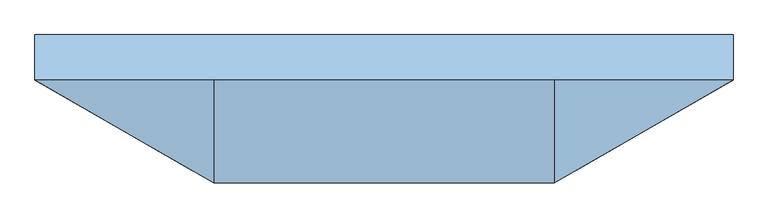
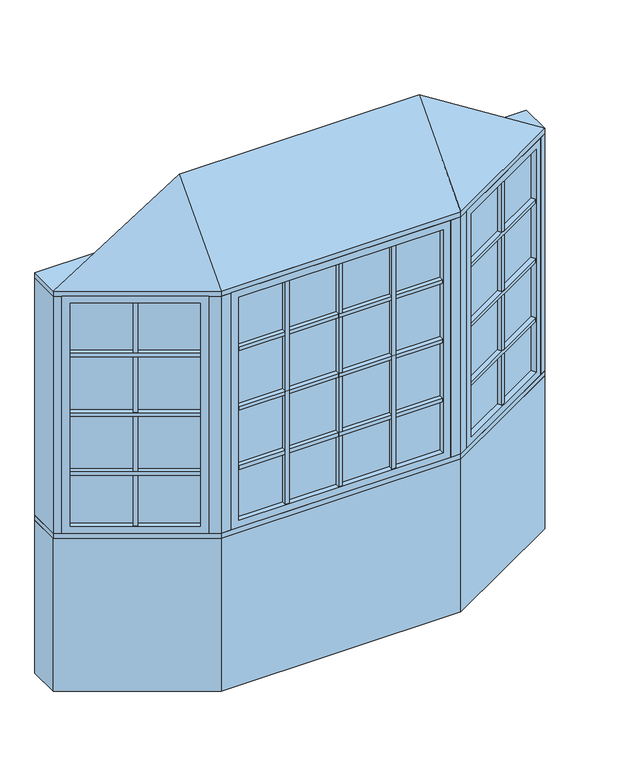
"""IFC4 building model written with IfcOpenShell, lengths in millimetres: window geometry, Pollard_Windows_Tudor Casement Bows and Bays : AML-BAY 30 AFR0612-12-600_GC."""

from ifc_helpers import new_model, si_unit, frame, origin, origin_with_axes, place, context, project, spatial, polyline, outline, extrude, faceted_brep, source, transform, mapped, element, save


def window_377e60f7(model_context):
    return source(origin(), model_context, "Body", "SolidModel", [
        extrude(outline(polyline([(646.881999, -376.6297343), (635.881999, -357.5771754), (1102.1135794, -88.3982469), (1113.1135794, -107.4508058), (646.881999, -376.6297343)])), frame((0.0, 0.0, 1390.998), z_axis=(0.0, 0.0, 1.0), x_axis=(1.0, 0.0, 0.0)), (0.0, 0.0, 1.0), 18.0),
        extrude(outline(polyline([(633.341999, -353.1777664), (622.341999, -334.1252075), (1088.5735794, -64.946279), (1099.5735794, -83.9988379), (633.341999, -353.1777664)])), frame((0.0, 0.0, 1390.998), z_axis=(0.0, 0.0, 1.0), x_axis=(1.0, 0.0, 0.0)), (0.0, 0.0, 1.0), 18.0),
        extrude(outline(polyline([(646.881999, -376.6297343), (635.881999, -357.5771754), (1102.1135794, -88.3982469), (1113.1135794, -107.4508058), (646.881999, -376.6297343)])), frame((0.0, 0.0, 1090.998), z_axis=(0.0, 0.0, 1.0), x_axis=(1.0, 0.0, 0.0)), (0.0, 0.0, 1.0), 18.0),
        extrude(outline(polyline([(633.341999, -353.1777664), (622.341999, -334.1252075), (1088.5735794, -64.946279), (1099.5735794, -83.9988379), (633.341999, -353.1777664)])), frame((0.0, 0.0, 1090.998), z_axis=(0.0, 0.0, 1.0), x_axis=(1.0, 0.0, 0.0)), (0.0, 0.0, 1.0), 18.0),
        extrude(outline(polyline([(646.881999, -376.6297343), (635.881999, -357.5771754), (1102.1135794, -88.3982469), (1113.1135794, -107.4508058), (646.881999, -376.6297343)])), frame((0.0, 0.0, 1390.998), z_axis=(0.0, 0.0, 1.0), x_axis=(1.0, 0.0, 0.0)), (0.0, 0.0, 1.0), 18.0),
        extrude(outline(polyline([(633.341999, -353.1777664), (622.341999, -334.1252075), (1088.5735794, -64.946279), (1099.5735794, -83.9988379), (633.341999, -353.1777664)])), frame((0.0, 0.0, 1390.998), z_axis=(0.0, 0.0, 1.0), x_axis=(1.0, 0.0, 0.0)), (0.0, 0.0, 1.0), 18.0),
        extrude(outline(polyline([(646.881999, -376.6297343), (635.881999, -357.5771754), (1102.1135794, -88.3982469), (1113.1135794, -107.4508058), (646.881999, -376.6297343)])), frame((0.0, 0.0, 1390.998), z_axis=(0.0, 0.0, 1.0), x_axis=(1.0, 0.0, 0.0)), (0.0, 0.0, 1.0), 18.0),
        extrude(outline(polyline([(633.341999, -353.1777664), (622.341999, -334.1252075), (1088.5735794, -64.946279), (1099.5735794, -83.9988379), (633.341999, -353.1777664)])), frame((0.0, 0.0, 1390.998), z_axis=(0.0, 0.0, 1.0), x_axis=(1.0, 0.0, 0.0)), (0.0, 0.0, 1.0), 18.0),
        extrude(outline(polyline([(646.881999, -376.6297343), (635.881999, -357.5771754), (1102.1135794, -88.3982469), (1113.1135794, -107.4508058), (646.881999, -376.6297343)])), frame((0.0, 0.0, 1690.998), z_axis=(0.0, 0.0, 1.0), x_axis=(1.0, 0.0, 0.0)), (0.0, 0.0, 1.0), 18.0),
        extrude(outline(polyline([(633.341999, -353.1777664), (622.341999, -334.1252075), (1088.5735794, -64.946279), (1099.5735794, -83.9988379), (633.341999, -353.1777664)])), frame((0.0, 0.0, 1690.998), z_axis=(0.0, 0.0, 1.0), x_axis=(1.0, 0.0, 0.0)), (0.0, 0.0, 1.0), 18.0),
        extrude(outline(polyline([(876.7920178, -218.4877112), (887.7920178, -237.5402701), (872.2035606, -246.5402701), (861.2035606, -227.4877112), (876.7920178, -218.4877112)])), frame((0.0, 0.0, 835.8628), z_axis=(0.0, 0.0, 1.0), x_axis=(1.0, 0.0, 0.0)), (0.0, 0.0, 1.0), 1128.2704),
        extrude(outline(polyline([(874.2520178, -214.0883021), (858.6635606, -223.0883021), (847.6635606, -204.0357432), (863.2520178, -195.0357432), (874.2520178, -214.0883021)])), frame((0.0, 0.0, 835.8628), z_axis=(0.0, 0.0, 1.0), x_axis=(1.0, 0.0, 0.0)), (0.0, 0.0, 1.0), 1128.2704),
        extrude(outline(polyline([(1113.112102, -82.0482469), (624.8834764, -363.9271754), (622.3434764, -359.5277664), (1110.572102, -77.6488379), (1113.112102, -82.0482469)])), frame((0.0, 0.0, 823.1628), z_axis=(0.0, 0.0, 1.0), x_axis=(1.0, 0.0, 0.0)), (0.0, 0.0, 1.0), 1153.6704),
        faceted_brep([(1102.1135794, -88.3982469, 835.8628), (1114.8135794, -110.3952922, 835.8628), (1114.8135794, -110.3952922, 1964.1332), (1102.1135794, -88.3982469, 1964.1332), (1110.572102, -77.6488379, 823.1628), (1113.112102, -82.0482469, 823.1628), (1113.112102, -82.0482469, 1976.8332), (1110.572102, -77.6488379, 1976.8332), (1086.8735794, -62.0017926, 835.8628), (1099.5735794, -83.9988379, 835.8628), (1099.5735794, -83.9988379, 1964.1332), (1086.8735794, -62.0017926, 1964.1332), (1145.8734073, -92.4628922, 799.998), (1117.9334073, -44.0693926, 799.998), (1117.9334073, -44.0693926, 1999.998), (1145.8734073, -92.4628922, 1999.998), (648.581999, -379.5742207, 1964.1332), (635.881999, -357.5771754, 1964.1332), (624.8834764, -363.9271754, 1976.8332), (622.3434764, -359.5277664, 1976.8332), (633.341999, -353.1777664, 1964.1332), (620.641999, -331.1807211, 1964.1332), (589.5821711, -349.1131211, 1999.998), (617.5221711, -397.5066207, 1999.998), (648.581999, -379.5742207, 835.8628), (635.881999, -357.5771754, 835.8628), (624.8834764, -363.9271754, 823.1628), (622.3434764, -359.5277664, 823.1628), (633.341999, -353.1777664, 835.8628), (620.641999, -331.1807211, 835.8628), (589.5821711, -349.1131211, 799.998), (617.5221711, -397.5066207, 799.998)], [[[0, 1, 2, 3]], [[4, 5, 6, 7]], [[8, 9, 10, 11]], [[12, 13, 14, 15]], [[3, 2, 16, 17]], [[7, 6, 18, 19]], [[11, 10, 20, 21]], [[15, 14, 22, 23]], [[17, 16, 24, 25]], [[19, 18, 26, 27]], [[21, 20, 28, 29]], [[23, 22, 30, 31]], [[25, 24, 1, 0]], [[5, 26, 18, 6], [3, 17, 25, 0]], [[27, 26, 5, 4]], [[7, 19, 27, 4], [9, 28, 20, 10]], [[29, 28, 9, 8]], [[13, 30, 22, 14], [11, 21, 29, 8]], [[31, 30, 13, 12]], [[15, 23, 31, 12], [1, 24, 16, 2]]]),
        extrude(outline(polyline([(264.0281504, -397.1066207), (264.0281504, -419.1066207), (246.0281504, -419.1066207), (246.0281504, -397.1066207), (264.0281504, -397.1066207)])), frame((0.0, 0.0, 835.8628), z_axis=(0.0, 0.0, 1.0), x_axis=(1.0, 0.0, 0.0)), (0.0, 0.0, 1.0), 1128.2704),
        extrude(outline(polyline([(264.0281504, -392.0266207), (246.0281504, -392.0266207), (246.0281504, -370.0266207), (264.0281504, -370.0266207), (264.0281504, -392.0266207)])), frame((0.0, 0.0, 835.8628), z_axis=(0.0, 0.0, 1.0), x_axis=(1.0, 0.0, 0.0)), (0.0, 0.0, 1.0), 1128.2704),
        extrude(outline(polyline([(-246.0281504, -397.1066207), (-246.0281504, -419.1066207), (-264.0281504, -419.1066207), (-264.0281504, -397.1066207), (-246.0281504, -397.1066207)])), frame((0.0, 0.0, 835.8628), z_axis=(0.0, 0.0, 1.0), x_axis=(1.0, 0.0, 0.0)), (0.0, 0.0, 1.0), 1128.2704),
        extrude(outline(polyline([(-246.0281504, -392.0266207), (-264.0281504, -392.0266207), (-264.0281504, -370.0266207), (-246.0281504, -370.0266207), (-246.0281504, -392.0266207)])), frame((0.0, 0.0, 835.8628), z_axis=(0.0, 0.0, 1.0), x_axis=(1.0, 0.0, 0.0)), (0.0, 0.0, 1.0), 1128.2704),
        extrude(outline(polyline([(-488.3561009, -419.1066207), (-488.3561009, -397.1066207), (488.3561009, -397.1066207), (488.3561009, -419.1066207), (-488.3561009, -419.1066207)])), frame((0.0, 0.0, 1090.998), z_axis=(0.0, 0.0, 1.0), x_axis=(1.0, 0.0, 0.0)), (0.0, 0.0, 1.0), 18.0),
        extrude(outline(polyline([(-488.3561009, -392.0266207), (-488.3561009, -370.0266207), (488.3561009, -370.0266207), (488.3561009, -392.0266207), (-488.3561009, -392.0266207)])), frame((0.0, 0.0, 1090.998), z_axis=(0.0, 0.0, 1.0), x_axis=(1.0, 0.0, 0.0)), (0.0, 0.0, 1.0), 18.0),
        extrude(outline(polyline([(-488.3561009, -419.1066207), (-488.3561009, -397.1066207), (488.3561009, -397.1066207), (488.3561009, -419.1066207), (-488.3561009, -419.1066207)])), frame((0.0, 0.0, 1390.998), z_axis=(0.0, 0.0, 1.0), x_axis=(1.0, 0.0, 0.0)), (0.0, 0.0, 1.0), 18.0),
        extrude(outline(polyline([(-488.3561009, -392.0266207), (-488.3561009, -370.0266207), (488.3561009, -370.0266207), (488.3561009, -392.0266207), (-488.3561009, -392.0266207)])), frame((0.0, 0.0, 1390.998), z_axis=(0.0, 0.0, 1.0), x_axis=(1.0, 0.0, 0.0)), (0.0, 0.0, 1.0), 18.0),
        extrude(outline(polyline([(-488.3561009, -419.1066207), (-488.3561009, -397.1066207), (488.3561009, -397.1066207), (488.3561009, -419.1066207), (-488.3561009, -419.1066207)])), frame((0.0, 0.0, 1390.998), z_axis=(0.0, 0.0, 1.0), x_axis=(1.0, 0.0, 0.0)), (0.0, 0.0, 1.0), 18.0),
        extrude(outline(polyline([(-488.3561009, -392.0266207), (-488.3561009, -370.0266207), (488.3561009, -370.0266207), (488.3561009, -392.0266207), (-488.3561009, -392.0266207)])), frame((0.0, 0.0, 1390.998), z_axis=(0.0, 0.0, 1.0), x_axis=(1.0, 0.0, 0.0)), (0.0, 0.0, 1.0), 18.0),
        extrude(outline(polyline([(-488.3561009, -419.1066207), (-488.3561009, -397.1066207), (488.3561009, -397.1066207), (488.3561009, -419.1066207), (-488.3561009, -419.1066207)])), frame((0.0, 0.0, 1390.998), z_axis=(0.0, 0.0, 1.0), x_axis=(1.0, 0.0, 0.0)), (0.0, 0.0, 1.0), 18.0),
        extrude(outline(polyline([(-488.3561009, -392.0266207), (-488.3561009, -370.0266207), (488.3561009, -370.0266207), (488.3561009, -392.0266207), (-488.3561009, -392.0266207)])), frame((0.0, 0.0, 1390.998), z_axis=(0.0, 0.0, 1.0), x_axis=(1.0, 0.0, 0.0)), (0.0, 0.0, 1.0), 18.0),
        extrude(outline(polyline([(-1113.1135794, -107.4508058), (-1102.1135794, -88.3982469), (-635.881999, -357.5771754), (-646.881999, -376.6297343), (-1113.1135794, -107.4508058)])), frame((0.0, 0.0, 1090.998), z_axis=(0.0, 0.0, 1.0), x_axis=(1.0, 0.0, 0.0)), (0.0, 0.0, 1.0), 18.0),
        extrude(outline(polyline([(-1099.5735794, -83.9988379), (-1088.5735794, -64.946279), (-622.341999, -334.1252075), (-633.341999, -353.1777664), (-1099.5735794, -83.9988379)])), frame((0.0, 0.0, 1090.998), z_axis=(0.0, 0.0, 1.0), x_axis=(1.0, 0.0, 0.0)), (0.0, 0.0, 1.0), 18.0),
        extrude(outline(polyline([(-1113.1135794, -107.4508058), (-1102.1135794, -88.3982469), (-635.881999, -357.5771754), (-646.881999, -376.6297343), (-1113.1135794, -107.4508058)])), frame((0.0, 0.0, 1390.998), z_axis=(0.0, 0.0, 1.0), x_axis=(1.0, 0.0, 0.0)), (0.0, 0.0, 1.0), 18.0),
        extrude(outline(polyline([(-1099.5735794, -83.9988379), (-1088.5735794, -64.946279), (-622.341999, -334.1252075), (-633.341999, -353.1777664), (-1099.5735794, -83.9988379)])), frame((0.0, 0.0, 1390.998), z_axis=(0.0, 0.0, 1.0), x_axis=(1.0, 0.0, 0.0)), (0.0, 0.0, 1.0), 18.0),
        extrude(outline(polyline([(-1113.1135794, -107.4508058), (-1102.1135794, -88.3982469), (-635.881999, -357.5771754), (-646.881999, -376.6297343), (-1113.1135794, -107.4508058)])), frame((0.0, 0.0, 1390.998), z_axis=(0.0, 0.0, 1.0), x_axis=(1.0, 0.0, 0.0)), (0.0, 0.0, 1.0), 18.0),
        extrude(outline(polyline([(-1099.5735794, -83.9988379), (-1088.5735794, -64.946279), (-622.341999, -334.1252075), (-633.341999, -353.1777664), (-1099.5735794, -83.9988379)])), frame((0.0, 0.0, 1390.998), z_axis=(0.0, 0.0, 1.0), x_axis=(1.0, 0.0, 0.0)), (0.0, 0.0, 1.0), 18.0),
        extrude(outline(polyline([(-1113.1135794, -107.4508058), (-1102.1135794, -88.3982469), (-635.881999, -357.5771754), (-646.881999, -376.6297343), (-1113.1135794, -107.4508058)])), frame((0.0, 0.0, 1390.998), z_axis=(0.0, 0.0, 1.0), x_axis=(1.0, 0.0, 0.0)), (0.0, 0.0, 1.0), 18.0),
        extrude(outline(polyline([(-1099.5735794, -83.9988379), (-1088.5735794, -64.946279), (-622.341999, -334.1252075), (-633.341999, -353.1777664), (-1099.5735794, -83.9988379)])), frame((0.0, 0.0, 1390.998), z_axis=(0.0, 0.0, 1.0), x_axis=(1.0, 0.0, 0.0)), (0.0, 0.0, 1.0), 18.0),
        extrude(outline(polyline([(-1113.1135794, -107.4508058), (-1102.1135794, -88.3982469), (-635.881999, -357.5771754), (-646.881999, -376.6297343), (-1113.1135794, -107.4508058)])), frame((0.0, 0.0, 1690.998), z_axis=(0.0, 0.0, 1.0), x_axis=(1.0, 0.0, 0.0)), (0.0, 0.0, 1.0), 18.0),
        extrude(outline(polyline([(-1099.5735794, -83.9988379), (-1088.5735794, -64.946279), (-622.341999, -334.1252075), (-633.341999, -353.1777664), (-1099.5735794, -83.9988379)])), frame((0.0, 0.0, 1690.998), z_axis=(0.0, 0.0, 1.0), x_axis=(1.0, 0.0, 0.0)), (0.0, 0.0, 1.0), 18.0),
        extrude(outline(polyline([(-488.3561009, -419.1066207), (-488.3561009, -397.1066207), (488.3561009, -397.1066207), (488.3561009, -419.1066207), (-488.3561009, -419.1066207)])), frame((0.0, 0.0, 1690.998), z_axis=(0.0, 0.0, 1.0), x_axis=(1.0, 0.0, 0.0)), (0.0, 0.0, 1.0), 18.0),
        extrude(outline(polyline([(-488.3561009, -392.0266207), (-488.3561009, -370.0266207), (488.3561009, -370.0266207), (488.3561009, -392.0266207), (-488.3561009, -392.0266207)])), frame((0.0, 0.0, 1690.998), z_axis=(0.0, 0.0, 1.0), x_axis=(1.0, 0.0, 0.0)), (0.0, 0.0, 1.0), 18.0),
        extrude(outline(polyline([(-861.2035606, -227.4877112), (-872.2035606, -246.5402701), (-887.7920178, -237.5402701), (-876.7920178, -218.4877112), (-861.2035606, -227.4877112)])), frame((0.0, 0.0, 835.8628), z_axis=(0.0, 0.0, 1.0), x_axis=(1.0, 0.0, 0.0)), (0.0, 0.0, 1.0), 1128.2704),
        extrude(outline(polyline([(-858.6635606, -223.0883021), (-874.2520178, -214.0883021), (-863.2520178, -195.0357432), (-847.6635606, -204.0357432), (-858.6635606, -223.0883021)])), frame((0.0, 0.0, 835.8628), z_axis=(0.0, 0.0, 1.0), x_axis=(1.0, 0.0, 0.0)), (0.0, 0.0, 1.0), 1128.2704),
        extrude(outline(polyline([(9.0, -397.1066207), (9.0, -419.1066207), (-9.0, -419.1066207), (-9.0, -397.1066207), (9.0, -397.1066207)])), frame((0.0, 0.0, 835.8628), z_axis=(0.0, 0.0, 1.0), x_axis=(1.0, 0.0, 0.0)), (0.0, 0.0, 1.0), 1128.2704),
        extrude(outline(polyline([(9.0, -392.0266207), (-9.0, -392.0266207), (-9.0, -370.0266207), (9.0, -370.0266207), (9.0, -392.0266207)])), frame((0.0, 0.0, 835.8628), z_axis=(0.0, 0.0, 1.0), x_axis=(1.0, 0.0, 0.0)), (0.0, 0.0, 1.0), 1128.2704),
        extrude(outline(polyline([(-624.8834764, -363.9271754), (-1113.112102, -82.0482469), (-1110.572102, -77.6488379), (-622.3434764, -359.5277664), (-624.8834764, -363.9271754)])), frame((0.0, 0.0, 823.1628), z_axis=(0.0, 0.0, 1.0), x_axis=(1.0, 0.0, 0.0)), (0.0, 0.0, 1.0), 1153.6704),
        faceted_brep([(-633.341999, -353.1777664, 1964.1332), (-620.641999, -331.1807211, 1964.1332), (-620.641999, -331.1807211, 835.8628), (-633.341999, -353.1777664, 835.8628), (-624.8834764, -363.9271754, 1976.8332), (-622.3434764, -359.5277664, 1976.8332), (-622.3434764, -359.5277664, 823.1628), (-624.8834764, -363.9271754, 823.1628), (-648.581999, -379.5742207, 1964.1332), (-635.881999, -357.5771754, 1964.1332), (-635.881999, -357.5771754, 835.8628), (-648.581999, -379.5742207, 835.8628), (-589.5821711, -349.1131211, 1999.998), (-617.5221711, -397.5066207, 1999.998), (-617.5221711, -397.5066207, 799.998), (-589.5821711, -349.1131211, 799.998), (-1086.8735794, -62.0017926, 835.8628), (-1099.5735794, -83.9988379, 835.8628), (-1110.572102, -77.6488379, 823.1628), (-1113.112102, -82.0482469, 823.1628), (-1102.1135794, -88.3982469, 835.8628), (-1114.8135794, -110.3952922, 835.8628), (-1145.8734073, -92.4628922, 799.998), (-1117.9334073, -44.0693926, 799.998), (-1086.8735794, -62.0017926, 1964.1332), (-1099.5735794, -83.9988379, 1964.1332), (-1110.572102, -77.6488379, 1976.8332), (-1113.112102, -82.0482469, 1976.8332), (-1102.1135794, -88.3982469, 1964.1332), (-1114.8135794, -110.3952922, 1964.1332), (-1145.8734073, -92.4628922, 1999.998), (-1117.9334073, -44.0693926, 1999.998)], [[[0, 1, 2, 3]], [[4, 5, 6, 7]], [[8, 9, 10, 11]], [[12, 13, 14, 15]], [[3, 2, 16, 17]], [[7, 6, 18, 19]], [[11, 10, 20, 21]], [[15, 14, 22, 23]], [[17, 16, 24, 25]], [[19, 18, 26, 27]], [[21, 20, 28, 29]], [[23, 22, 30, 31]], [[15, 23, 31, 12], [1, 24, 16, 2]], [[25, 24, 1, 0]], [[5, 26, 18, 6], [3, 17, 25, 0]], [[27, 26, 5, 4]], [[7, 19, 27, 4], [9, 28, 20, 10]], [[29, 28, 9, 8]], [[13, 30, 22, 14], [11, 21, 29, 8]], [[31, 30, 13, 12]]]),
        extrude(outline(polyline([(501.0561009, -397.1066207), (-501.0561009, -397.1066207), (-501.0561009, -392.0266207), (501.0561009, -392.0266207), (501.0561009, -397.1066207)])), frame((0.0, 0.0, 823.1628), z_axis=(0.0, 0.0, 1.0), x_axis=(1.0, 0.0, 0.0)), (0.0, 0.0, 1.0), 1153.6704),
        faceted_brep([(488.3561009, -397.1066207, 835.8628), (488.3561009, -422.5066207, 835.8628), (488.3561009, -422.5066207, 1964.1332), (488.3561009, -397.1066207, 1964.1332), (501.0561009, -392.0266207, 823.1628), (501.0561009, -397.1066207, 823.1628), (501.0561009, -397.1066207, 1976.8332), (501.0561009, -392.0266207, 1976.8332), (488.3561009, -366.6266207, 835.8628), (488.3561009, -392.0266207, 835.8628), (488.3561009, -392.0266207, 1964.1332), (488.3561009, -366.6266207, 1964.1332), (524.2209009, -422.5066207, 799.998), (524.2209009, -366.6266207, 799.998), (524.2209009, -366.6266207, 1999.998), (524.2209009, -422.5066207, 1999.998), (-488.3561009, -422.5066207, 1964.1332), (-488.3561009, -397.1066207, 1964.1332), (-501.0561009, -397.1066207, 1976.8332), (-501.0561009, -392.0266207, 1976.8332), (-488.3561009, -392.0266207, 1964.1332), (-488.3561009, -366.6266207, 1964.1332), (-524.2209009, -366.6266207, 1999.998), (-524.2209009, -422.5066207, 1999.998), (-488.3561009, -422.5066207, 835.8628), (-488.3561009, -397.1066207, 835.8628), (-501.0561009, -397.1066207, 823.1628), (-501.0561009, -392.0266207, 823.1628), (-488.3561009, -392.0266207, 835.8628), (-488.3561009, -366.6266207, 835.8628), (-524.2209009, -366.6266207, 799.998), (-524.2209009, -422.5066207, 799.998)], [[[0, 1, 2, 3]], [[4, 5, 6, 7]], [[8, 9, 10, 11]], [[12, 13, 14, 15]], [[3, 2, 16, 17]], [[7, 6, 18, 19]], [[11, 10, 20, 21]], [[15, 14, 22, 23]], [[17, 16, 24, 25]], [[19, 18, 26, 27]], [[21, 20, 28, 29]], [[23, 22, 30, 31]], [[15, 23, 31, 12], [1, 24, 16, 2]], [[25, 24, 1, 0]], [[5, 26, 18, 6], [3, 17, 25, 0]], [[27, 26, 5, 4]], [[7, 19, 27, 4], [9, 28, 20, 10]], [[29, 28, 9, 8]], [[13, 30, 22, 14], [11, 21, 29, 8]], [[31, 30, 13, 12]]]),
        faceted_brep([(1176.5, -74.7806207, 2025.398), (574.2209009, -422.5066207, 2025.398), (-574.2209009, -422.5066207, 2025.398), (-1176.5, -74.7806207, 2025.398), (-574.2209009, -74.7806207, 2406.398), (574.2209009, -74.7806207, 2406.398)], [[[0, 1, 2, 3]], [[3, 2, 4]], [[2, 1, 5, 4]], [[1, 0, 5]], [[0, 3, 4, 5]]]),
        extrude(outline(polyline([(-1176.5, 77.6193793), (1176.5, 77.6193793), (1176.5, -74.7806207), (574.2209009, -422.5066207), (-574.2209009, -422.5066207), (-1176.5, -74.7806207), (-1176.5, 77.6193793)])), frame((0.0, 0.0, 1999.998), z_axis=(0.0, 0.0, 1.0), x_axis=(1.0, 0.0, 0.0)), (0.0, 0.0, 1.0), 25.4),
        extrude(outline(polyline([(-1176.5, -74.7806207), (-1176.5, 77.6193793), (-1135.6645431, 77.6193793), (-1135.6645431, -74.7806207), (-1145.8734073, -92.4628922), (-1176.5, -74.7806207)])), frame((0.0, 0.0, 799.998), z_axis=(0.0, 0.0, 1.0), x_axis=(1.0, 0.0, 0.0)), (0.0, 0.0, 1.0), 1200.0),
        extrude(outline(polyline([(1176.5, 77.6193793), (1176.5, -74.7806207), (1145.8734073, -92.4628922), (1135.6645431, -74.7806207), (1135.6645431, 77.6193793), (1176.5, 77.6193793)])), frame((0.0, 0.0, 799.998), z_axis=(0.0, 0.0, 1.0), x_axis=(1.0, 0.0, 0.0)), (0.0, 0.0, 1.0), 1200.0),
        extrude(outline(polyline([(574.2209009, -422.5066207), (524.2209009, -422.5066207), (524.2209009, -372.5066207), (560.8234413, -372.5066207), (592.5221711, -354.2053505), (617.5221711, -397.5066207), (574.2209009, -422.5066207)])), frame((0.0, 0.0, 799.998), z_axis=(0.0, 0.0, 1.0), x_axis=(1.0, 0.0, 0.0)), (0.0, 0.0, 1.0), 1200.0),
        extrude(outline(polyline([(-574.2209009, -422.5066207), (-617.5221711, -397.5066207), (-592.5221711, -354.2053505), (-560.8234413, -372.5066207), (-524.2209009, -372.5066207), (-524.2209009, -422.5066207), (-574.2209009, -422.5066207)])), frame((0.0, 0.0, 799.998), z_axis=(0.0, 0.0, 1.0), x_axis=(1.0, 0.0, 0.0)), (0.0, 0.0, 1.0), 1200.0),
        extrude(outline(polyline([(-574.2209009, -422.5066207), (-1176.5, -74.7806207), (-1176.5, 77.6193793), (-1135.6645431, 77.6193793), (-533.385444, -270.1066207), (533.385444, -270.1066207), (1135.6645431, 77.6193793), (1176.5, 77.6193793), (1176.5, -74.7806207), (574.2209009, -422.5066207), (-574.2209009, -422.5066207)])), frame((0.0, 0.0, 774.598), z_axis=(0.0, 0.0, 1.0), x_axis=(1.0, 0.0, 0.0)), (0.0, 0.0, 1.0), 25.4),
        extrude(outline(polyline([(-1176.5, -74.7806207), (-1176.5, 77.6193793), (-1135.6645431, 77.6193793), (-533.385444, -270.1066207), (533.385444, -270.1066207), (1135.6645431, 77.6193793), (1176.5, 77.6193793), (1176.5, -74.7806207), (574.2209009, -422.5066207), (-574.2209009, -422.5066207), (-1176.5, -74.7806207)])), origin_with_axes(), (0.0, 0.0, 1.0), 774.598),
    ])


if __name__ == "__main__":
    model = new_model("IFC4")
    model_context = context("Model", 3, world=origin())
    ifc_project = project(units=[si_unit("LENGTHUNIT", "METRE", prefix="MILLI")], contexts=[model_context])
    site = spatial("IfcSite", under=ifc_project)
    building = spatial("IfcBuilding", under=site)
    placement = place(None, origin())
    window_shape = window_377e60f7(model_context)
    element("IfcWindow", 1, ObjectType="Pollard_Windows_Tudor Casement Bows and Bays : AML-BAY 30 AFR0612-12-600_GC", at=placement, inside=building, context=model_context, shape_type="MappedRepresentation", body=[
        mapped(window_shape, transform((0.0, 0.0, 0.0), x_axis=(1.0, 0.0, 0.0), y_axis=(0.0, 1.0, 0.0), z_axis=(0.0, 0.0, 1.0))),
    ])
    save(model, "model.ifc")
